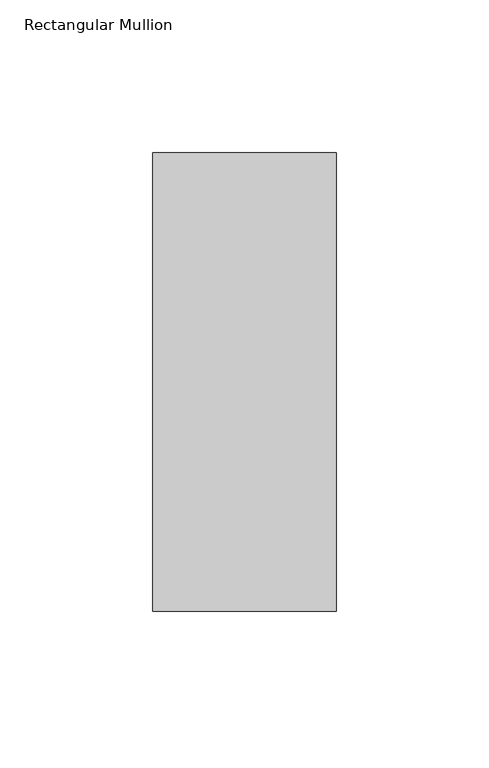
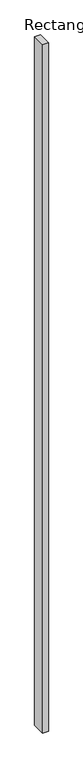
"""IFC4 building model written with IfcOpenShell, lengths in millimetres: member geometry, Rectangular Mullion : TERÇA APARELHADA 6X15 cm."""

from ifc_helpers import new_model, si_unit, frame, origin, place, context, project, spatial, polyline, outline, extrude, source, transform, mapped, element, save


def rectangular_mullion_ec073536(model_context):
    return source(origin(), model_context, "Body", "SweptSolid", [
        extrude(outline(polyline([(0.0, 15.0), (0.0, -135.0), (-60.0, -135.0), (-60.0, 15.0), (0.0, 15.0)])), frame((0.0, 0.0, -7800.0), z_axis=(0.0, 0.0, 1.0), x_axis=(1.0, 0.0, 0.0)), (0.0, 0.0, 1.0), 7800.0),
    ])


if __name__ == "__main__":
    model = new_model("IFC4")
    model_context = context("Model", 3, world=origin())
    ifc_project = project(units=[si_unit("LENGTHUNIT", "METRE", prefix="MILLI")], contexts=[model_context])
    site = spatial("IfcSite", under=ifc_project)
    building = spatial("IfcBuilding", under=site)
    placement = place(None, origin())
    rectangular_mullion_shape = rectangular_mullion_ec073536(model_context)
    element("IfcMember", 1, ObjectType="Rectangular Mullion : TERÇA APARELHADA 6X15 cm", at=placement, inside=building, context=model_context, shape_type="MappedRepresentation", body=[
        mapped(rectangular_mullion_shape, transform((0.0, 0.0, 0.0), x_axis=(1.0, 0.0, 0.0), y_axis=(0.0, 1.0, 0.0), z_axis=(0.0, 0.0, 1.0))),
    ])
    save(model, "model.ifc")
